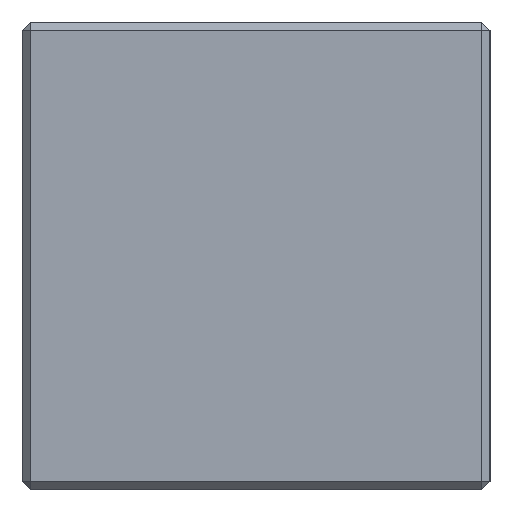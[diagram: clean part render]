
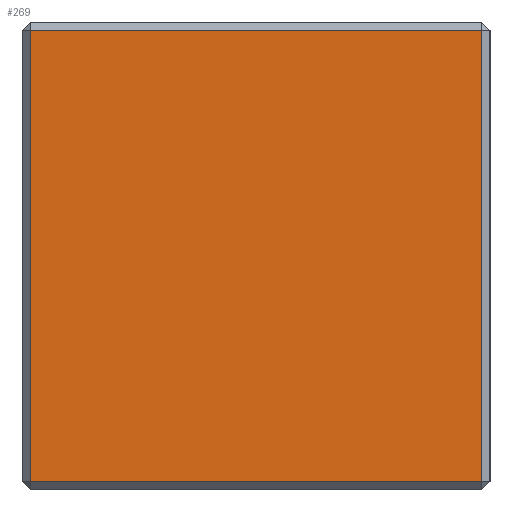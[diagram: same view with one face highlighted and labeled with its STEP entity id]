
A CAD part, left-side view. The second image highlights one B-rep face of the part: STEP entity #269.
In plain terms, the highlighted planar face has unit normal (-1, 0, 0).
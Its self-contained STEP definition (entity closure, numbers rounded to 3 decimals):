
#115=FACE_OUTER_BOUND('',#398,.T.);
#152=LINE('',#1288,#200);
#153=LINE('',#1291,#201);
#154=LINE('',#1293,#202);
#155=LINE('',#1295,#203);
#200=VECTOR('',#901,1.);
#201=VECTOR('',#902,1.);
#202=VECTOR('',#903,1.);
#203=VECTOR('',#904,1.);
#237=PLANE('',#798);
#269=ADVANCED_FACE('',(#115),#237,.F.);
#398=EDGE_LOOP('',(#486,#487,#488,#489));
#486=ORIENTED_EDGE('',*,*,#713,.T.);
#487=ORIENTED_EDGE('',*,*,#714,.T.);
#488=ORIENTED_EDGE('',*,*,#715,.T.);
#489=ORIENTED_EDGE('',*,*,#716,.T.);
#656=VERTEX_POINT('',#1289);
#657=VERTEX_POINT('',#1290);
#658=VERTEX_POINT('',#1292);
#659=VERTEX_POINT('',#1294);
#713=EDGE_CURVE('',#656,#657,#152,.T.);
#714=EDGE_CURVE('',#657,#658,#153,.T.);
#715=EDGE_CURVE('',#658,#659,#154,.T.);
#716=EDGE_CURVE('',#659,#656,#155,.T.);
#798=AXIS2_PLACEMENT_3D('',#1296,#905,#906);
#901=DIRECTION('',(0.,0.,-1.));
#902=DIRECTION('',(0.,-1.,0.));
#903=DIRECTION('',(0.,0.,1.));
#904=DIRECTION('',(0.,1.,0.));
#905=DIRECTION('',(1.,0.,0.));
#906=DIRECTION('',(0.,0.,-1.));
#1288=CARTESIAN_POINT('',(-130.,13.5,0.));
#1289=CARTESIAN_POINT('',(-130.,13.5,13.5));
#1290=CARTESIAN_POINT('',(-130.,13.5,-13.5));
#1291=CARTESIAN_POINT('',(-130.,0.,-13.5));
#1292=CARTESIAN_POINT('',(-130.,-13.5,-13.5));
#1293=CARTESIAN_POINT('',(-130.,-13.5,0.));
#1294=CARTESIAN_POINT('',(-130.,-13.5,13.5));
#1295=CARTESIAN_POINT('',(-130.,0.,13.5));
#1296=CARTESIAN_POINT('',(-130.,0.,0.));
